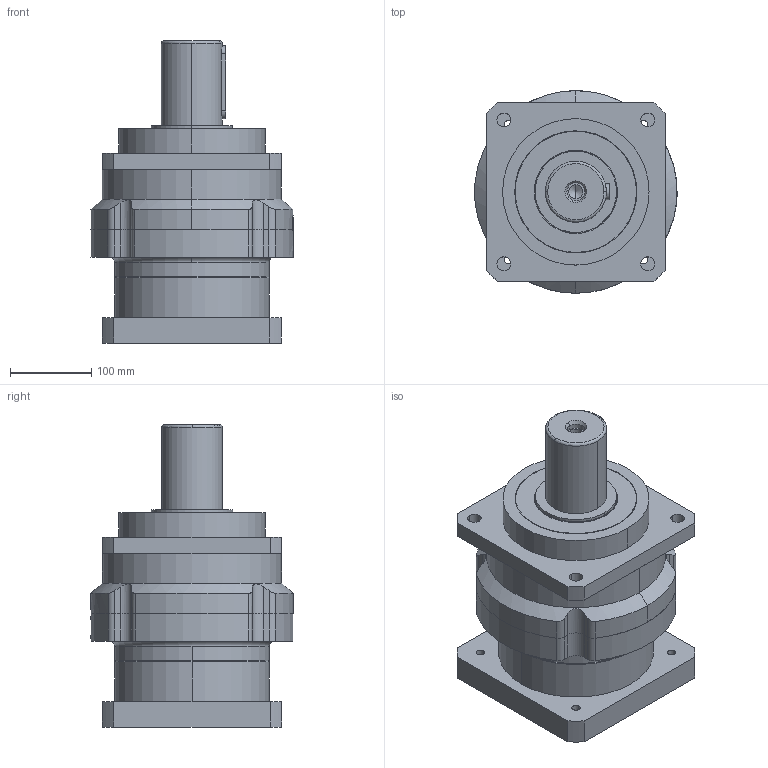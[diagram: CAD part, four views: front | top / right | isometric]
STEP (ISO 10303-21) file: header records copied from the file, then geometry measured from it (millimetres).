
FILE_DESCRIPTION (( 'STEP AP203' ), '1' );
FILE_NAME ('PLM220-L1-42-200-235.STEP', '2022-07-05T07:06:34', ( 'Windows User' ), ( 'P R C' ), 'SwSTEP 2.0', 'SolidWorks 2016', '' );
FILE_SCHEMA (( 'CONFIG_CONTROL_DESIGN' ));
Length unit declared in the file: millimetre
Products named in the file (7): PLM220转架齿圈; 邧埴瑩 20x12x90; TC100-150-10_TC-34.9-55-7; PLM220珨撰狟裔薊粣ん; PLM220-LJ01; hexagon socket head cap screw_jis_JIS B 1176 M12 x 35 (35) --N; PLM220-L1-42-200-235
Assembly tree (6 placements, depth 2):
  PLM220-L1-42-200-235
    PLM220转架齿圈
    邧埴瑩 20x12x90
    TC100-150-10_TC-34.9-55-7
    PLM220珨撰狟裔薊粣ん
    PLM220-LJ01
    hexagon socket head cap screw_jis_JIS B 1176 M12 x 35 (35) --N
Bounding box: 248.55 x 249 x 371.5 mm (x, y, z)
Volume: 9152997.4 mm3; surface area: 676774 mm2
Topology: 6 solids, 6 shells, 1023 faces, 2690 edges, 1760 vertices
Faces by surface type: plane 540, cylinder 233, bspline 158, cone 68, torus 24
Entity records: 40041 total; most frequent: CARTESIAN_POINT 14726, ORIENTED_EDGE 5328, DIRECTION 4693, EDGE_CURVE 2664, VERTEX_POINT 1760, AXIS2_PLACEMENT_3D 1580, LINE 1533, VECTOR 1533
